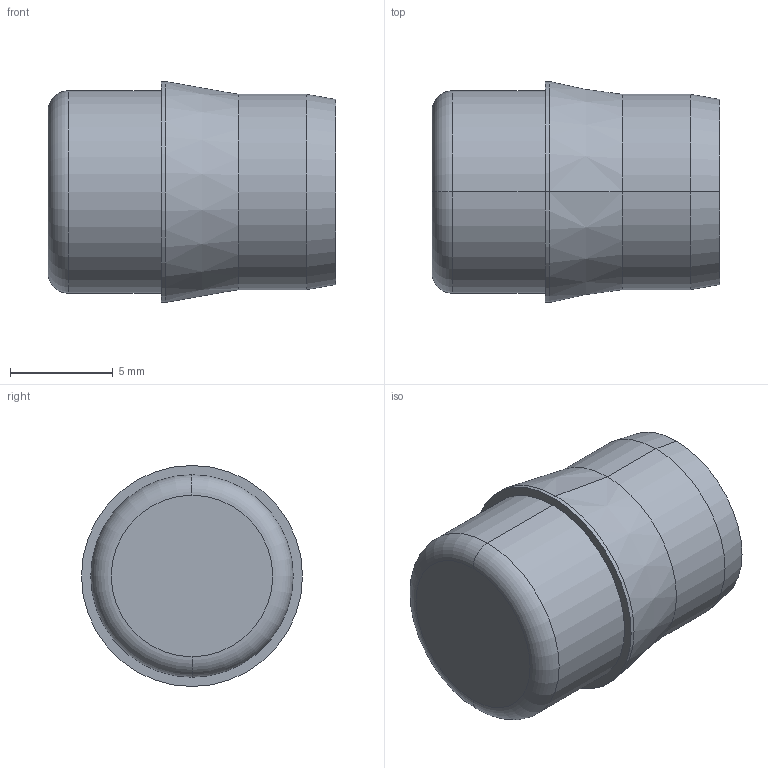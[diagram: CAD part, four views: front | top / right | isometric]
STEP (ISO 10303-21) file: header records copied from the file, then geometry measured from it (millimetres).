
FILE_DESCRIPTION (( 'STEP AP203' ), '1' );
FILE_NAME ('KP_06016-10.step', '2011-08-08T12:05:39', ( '' ), ( '' ), 'SwSTEP 2.0', 'SolidWorks 2011', '' );
FILE_SCHEMA (( 'CONFIG_CONTROL_DESIGN' ));
Length unit declared in the file: millimetre
Products named in the file (1): KP_06016-10
Bounding box: 14 x 10.75 x 10.75 mm (x, y, z)
Volume: 896.2 mm3; surface area: 718.7 mm2
Topology: 1 solids, 1 shells, 18 faces, 34 edges, 20 vertices
Faces by surface type: cylinder 8, cone 4, plane 4, torus 2
Entity records: 533 total; most frequent: DIRECTION 94, CARTESIAN_POINT 73, ORIENTED_EDGE 68, AXIS2_PLACEMENT_3D 41, EDGE_CURVE 34, CIRCLE 22, EDGE_LOOP 20, VERTEX_POINT 20
